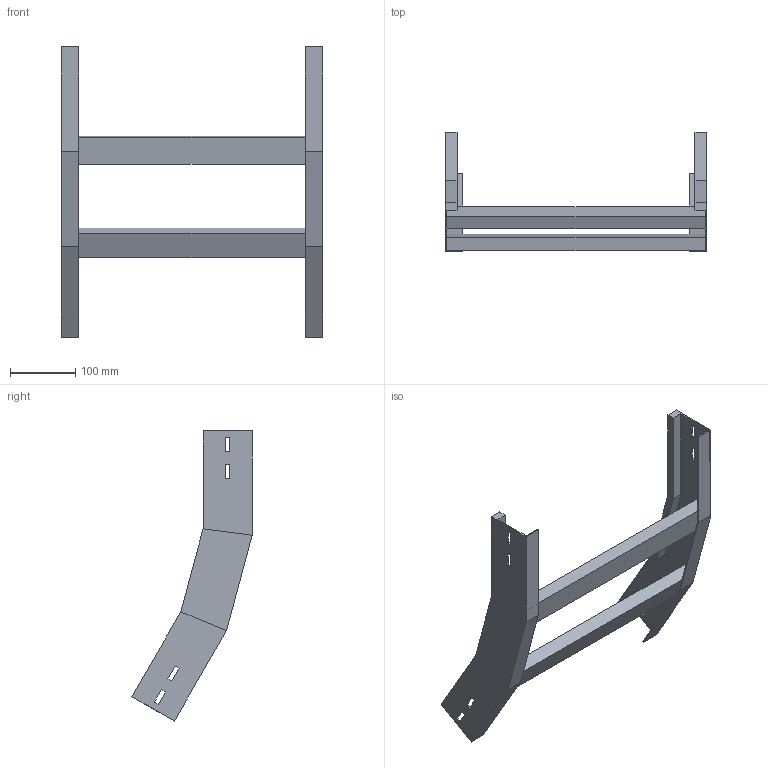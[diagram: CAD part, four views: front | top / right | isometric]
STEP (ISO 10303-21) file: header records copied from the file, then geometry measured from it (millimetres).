
FILE_DESCRIPTION (( 'STEP AP214' ), '1' );
FILE_NAME ('A2X32B5C400XX.step', '2025-03-20T10:02:05', ( '' ), ( '' ), 'SwSTEP 2.0', 'SolidWorks 2023', '' );
FILE_SCHEMA (( 'AUTOMOTIVE_DESIGN' ));
Length unit declared in the file: millimetre
Products named in the file (3): LONGH.SALITA_30°_H75_R500; A2X32B5C400XX; TRAVERSINO_400
Assembly tree (4 placements, depth 2):
  A2X32B5C400XX
    LONGH.SALITA_30°_H75_R500  x2
    TRAVERSINO_400  x2
Bounding box: 400 x 183.88 x 443.86 mm (x, y, z)
Volume: 987919.5 mm3; surface area: 312672.3 mm2
Topology: 4 solids, 4 shells, 96 faces, 232 edges, 144 vertices
Faces by surface type: plane 96
Entity records: 1472 total; most frequent: CARTESIAN_POINT 243, ORIENTED_EDGE 232, DIRECTION 226, EDGE_CURVE 116, VECTOR 116, LINE 116, VERTEX_POINT 72, EDGE_LOOP 56
